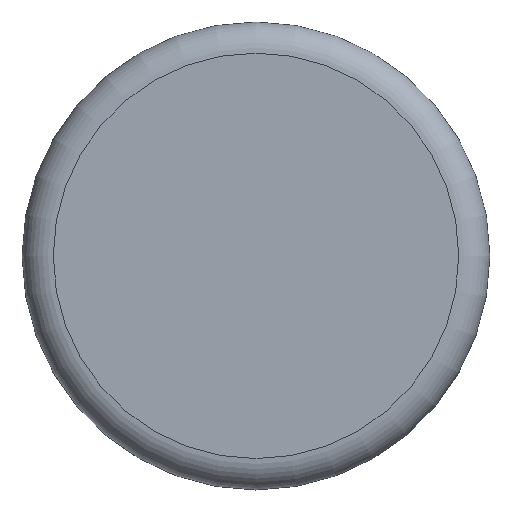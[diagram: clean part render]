
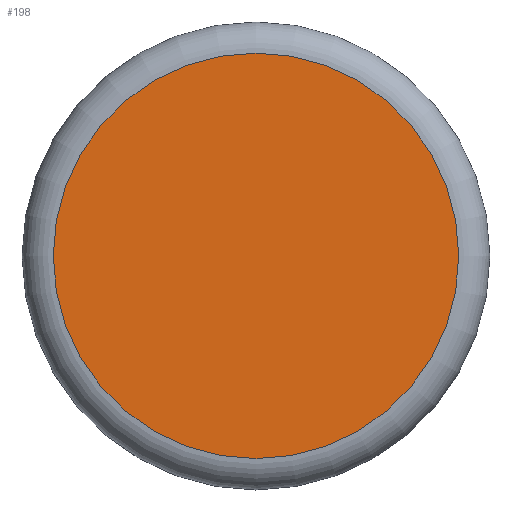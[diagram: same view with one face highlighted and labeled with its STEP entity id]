
A CAD part, top view. The second image highlights one B-rep face of the part: STEP entity #198.
In plain terms, the highlighted planar face has unit normal (0, 0, 1).
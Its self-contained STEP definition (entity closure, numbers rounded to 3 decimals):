
#66 = TOROIDAL_SURFACE('',#67,5.2,0.8);
#67 = AXIS2_PLACEMENT_3D('',#68,#69,#70);
#68 = CARTESIAN_POINT('',(-68.,0.,88.2));
#69 = DIRECTION('',(0.,0.,1.));
#70 = DIRECTION('',(1.,0.,-0.));
#110 = VERTEX_POINT('',#111);
#111 = CARTESIAN_POINT('',(-62.8,0.,89.));
#133 = EDGE_CURVE('',#110,#110,#134,.T.);
#134 = SURFACE_CURVE('',#135,(#140,#147),.PCURVE_S1.);
#135 = CIRCLE('',#136,5.2);
#136 = AXIS2_PLACEMENT_3D('',#137,#138,#139);
#137 = CARTESIAN_POINT('',(-68.,0.,89.));
#138 = DIRECTION('',(0.,0.,1.));
#139 = DIRECTION('',(1.,0.,-0.));
#140 = PCURVE('',#66,#141);
#141 = DEFINITIONAL_REPRESENTATION('',(#142),#146);
#142 = LINE('',#143,#144);
#143 = CARTESIAN_POINT('',(0.,1.571));
#144 = VECTOR('',#145,1.);
#145 = DIRECTION('',(1.,0.));
#146 = ( GEOMETRIC_REPRESENTATION_CONTEXT(2) 
PARAMETRIC_REPRESENTATION_CONTEXT() REPRESENTATION_CONTEXT('2D SPACE',''
  ) );
#147 = PCURVE('',#148,#153);
#148 = PLANE('',#149);
#149 = AXIS2_PLACEMENT_3D('',#150,#151,#152);
#150 = CARTESIAN_POINT('',(-68.,0.,89.));
#151 = DIRECTION('',(0.,0.,1.));
#152 = DIRECTION('',(1.,0.,-0.));
#153 = DEFINITIONAL_REPRESENTATION('',(#154),#158);
#154 = CIRCLE('',#155,5.2);
#155 = AXIS2_PLACEMENT_2D('',#156,#157);
#156 = CARTESIAN_POINT('',(0.,0.));
#157 = DIRECTION('',(1.,0.));
#158 = ( GEOMETRIC_REPRESENTATION_CONTEXT(2) 
PARAMETRIC_REPRESENTATION_CONTEXT() REPRESENTATION_CONTEXT('2D SPACE',''
  ) );
#198 = ADVANCED_FACE('',(#199),#148,.T.);
#199 = FACE_BOUND('',#200,.T.);
#200 = EDGE_LOOP('',(#201));
#201 = ORIENTED_EDGE('',*,*,#133,.T.);
